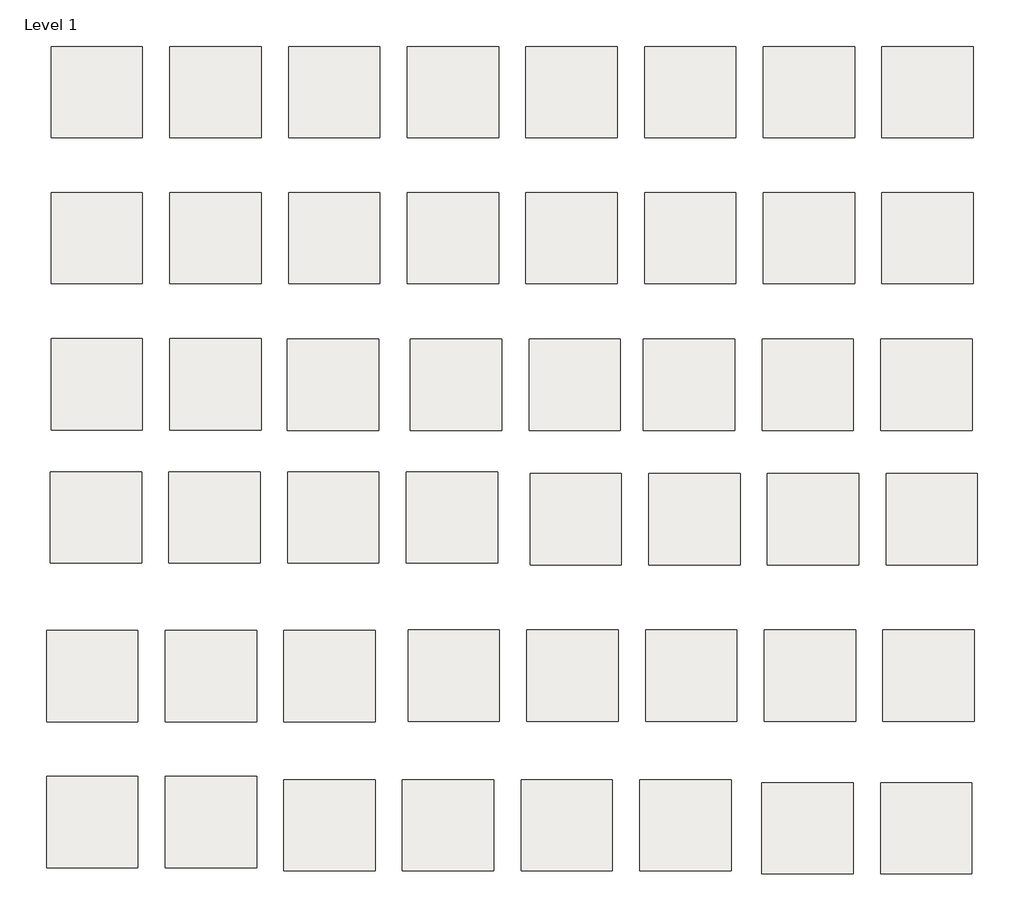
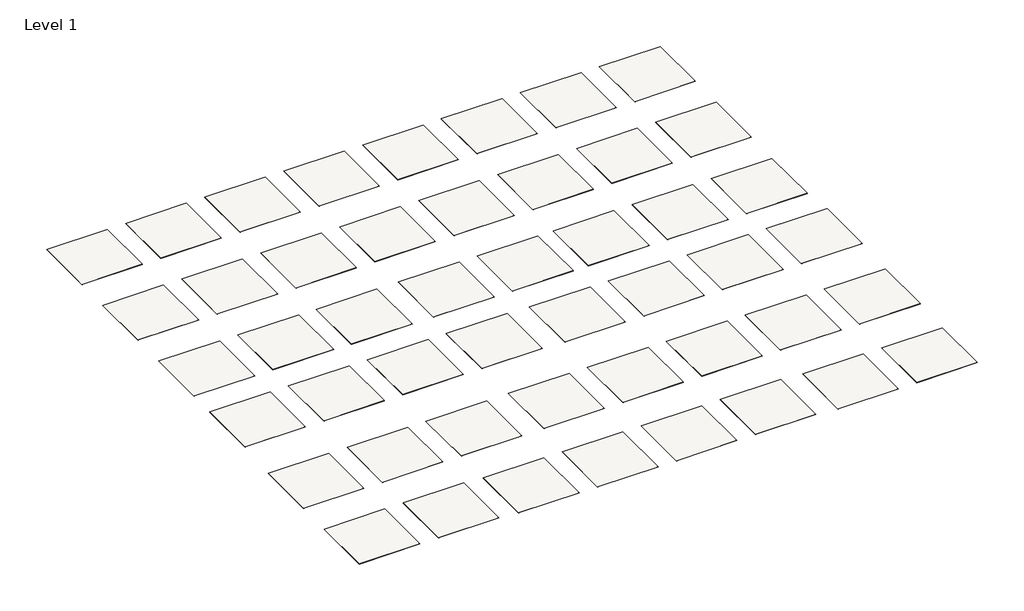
# One storey: 48 slabs.
"""IFC4 building model written with IfcOpenShell, lengths in millimetres."""

from ifc_helpers import new_model, si_unit, frame, origin, place, context, project, spatial, polyline, outline, extrude, element, save

model = new_model("IFC4")

# Units and contexts
model_context = context("Model", 3, world=origin())
ifc_project = project(units=[si_unit("LENGTHUNIT", "METRE", prefix="MILLI")], contexts=[model_context])

# Site, building, storey
site = spatial("IfcSite", under=ifc_project)
building = spatial("IfcBuilding", under=site)
storey = spatial("IfcBuildingStorey", under=building, Name="Level 1", Elevation=0.0)

# Slabs
placement = place(None, origin())
element("IfcSlab", 1, ObjectType="Armstrong_ColorArt_Medintone_H5300_cool white", at=placement, inside=storey, context=model_context, shape_type="SweptSolid", body=[
    extrude(outline(polyline([(3311.6055838, 2884.7695431), (3311.6055838, 1360.7695431), (1787.6055838, 1360.7695431), (1787.6055838, 2884.7695431), (3311.6055838, 2884.7695431)])), frame((0.0, 0.0, -2.4804688), z_axis=(0.0, 0.0, 1.0), x_axis=(1.0, 0.0, 0.0)), (0.0, 0.0, 1.0), 2.4804688),
])
element("IfcSlab", 2, ObjectType="Armstrong_ColorArt_Medintone_H5308_rock dust mid", at=placement, inside=storey, context=model_context, shape_type="SweptSolid", body=[
    extrude(outline(polyline([(3311.6055838, 446.3695431), (3311.6055838, -1077.6304569), (1787.6055838, -1077.6304569), (1787.6055838, 446.3695431), (3311.6055838, 446.3695431)])), frame((0.0, 0.0, -2.4804688), z_axis=(0.0, 0.0, 1.0), x_axis=(1.0, 0.0, 0.0)), (0.0, 0.0, 1.0), 2.4804688),
])
element("IfcSlab", 3, ObjectType="Armstrong_ColorArt_Medintone_H5301_gray light", at=placement, inside=storey, context=model_context, shape_type="SweptSolid", body=[
    extrude(outline(polyline([(5292.8055838, 2884.7695431), (5292.8055838, 1360.7695431), (3768.8055838, 1360.7695431), (3768.8055838, 2884.7695431), (5292.8055838, 2884.7695431)])), frame((0.0, 0.0, -2.4804688), z_axis=(0.0, 0.0, 1.0), x_axis=(1.0, 0.0, 0.0)), (0.0, 0.0, 1.0), 2.4804688),
])
element("IfcSlab", 4, ObjectType="Armstrong_ColorArt_Medintone_H5302_deep gray", at=placement, inside=storey, context=model_context, shape_type="SweptSolid", body=[
    extrude(outline(polyline([(7274.0055838, 2884.7695431), (7274.0055838, 1360.7695431), (5750.0055838, 1360.7695431), (5750.0055838, 2884.7695431), (7274.0055838, 2884.7695431)])), frame((0.0, 0.0, -2.4804688), z_axis=(0.0, 0.0, 1.0), x_axis=(1.0, 0.0, 0.0)), (0.0, 0.0, 1.0), 2.4804688),
])
element("IfcSlab", 5, ObjectType="Armstrong_ColorArt_Medintone_H5303_almost black", at=placement, inside=storey, context=model_context, shape_type="SweptSolid", body=[
    extrude(outline(polyline([(9255.2055838, 2884.7695431), (9255.2055838, 1360.7695431), (7731.2055838, 1360.7695431), (7731.2055838, 2884.7695431), (9255.2055838, 2884.7695431)])), frame((0.0, 0.0, -2.4804688), z_axis=(0.0, 0.0, 1.0), x_axis=(1.0, 0.0, 0.0)), (0.0, 0.0, 1.0), 2.4804688),
])
element("IfcSlab", 6, ObjectType="Armstrong_ColorArt_Medintone_H5304_natural gray light", at=placement, inside=storey, context=model_context, shape_type="SweptSolid", body=[
    extrude(outline(polyline([(11236.4055838, 2884.7695431), (11236.4055838, 1360.7695431), (9712.4055838, 1360.7695431), (9712.4055838, 2884.7695431), (11236.4055838, 2884.7695431)])), frame((0.0, 0.0, -2.4804688), z_axis=(0.0, 0.0, 1.0), x_axis=(1.0, 0.0, 0.0)), (0.0, 0.0, 1.0), 2.4804688),
])
element("IfcSlab", 7, ObjectType="Armstrong_ColorArt_Medintone_H5305_natural gray", at=placement, inside=storey, context=model_context, shape_type="SweptSolid", body=[
    extrude(outline(polyline([(13217.6055838, 2884.7695431), (13217.6055838, 1360.7695431), (11693.6055838, 1360.7695431), (11693.6055838, 2884.7695431), (13217.6055838, 2884.7695431)])), frame((0.0, 0.0, -2.4804688), z_axis=(0.0, 0.0, 1.0), x_axis=(1.0, 0.0, 0.0)), (0.0, 0.0, 1.0), 2.4804688),
])
element("IfcSlab", 8, ObjectType="Armstrong_ColorArt_Medintone_H5306_natural gray dark", at=placement, inside=storey, context=model_context, shape_type="SweptSolid", body=[
    extrude(outline(polyline([(15198.8055838, 2884.7695431), (15198.8055838, 1360.7695431), (13674.8055838, 1360.7695431), (13674.8055838, 2884.7695431), (15198.8055838, 2884.7695431)])), frame((0.0, 0.0, -2.4804688), z_axis=(0.0, 0.0, 1.0), x_axis=(1.0, 0.0, 0.0)), (0.0, 0.0, 1.0), 2.4804688),
])
element("IfcSlab", 9, ObjectType="Armstrong_ColorArt_Medintone_H5307_rock dust light", at=placement, inside=storey, context=model_context, shape_type="SweptSolid", body=[
    extrude(outline(polyline([(17180.0055838, 2884.7695431), (17180.0055838, 1360.7695431), (15656.0055838, 1360.7695431), (15656.0055838, 2884.7695431), (17180.0055838, 2884.7695431)])), frame((0.0, 0.0, -2.4804688), z_axis=(0.0, 0.0, 1.0), x_axis=(1.0, 0.0, 0.0)), (0.0, 0.0, 1.0), 2.4804688),
])
element("IfcSlab", 10, ObjectType="Armstrong_ColorArt_Medintone_H5310_rock brown", at=placement, inside=storey, context=model_context, shape_type="SweptSolid", body=[
    extrude(outline(polyline([(5292.8055838, 446.3695431), (5292.8055838, -1077.6304569), (3768.8055838, -1077.6304569), (3768.8055838, 446.3695431), (5292.8055838, 446.3695431)])), frame((0.0, 0.0, -2.4804688), z_axis=(0.0, 0.0, 1.0), x_axis=(1.0, 0.0, 0.0)), (0.0, 0.0, 1.0), 2.4804688),
])
element("IfcSlab", 11, ObjectType="Armstrong_ColorArt_Medintone_H5311_natural white", at=placement, inside=storey, context=model_context, shape_type="SweptSolid", body=[
    extrude(outline(polyline([(7274.0055838, 446.3695431), (7274.0055838, -1077.6304569), (5750.0055838, -1077.6304569), (5750.0055838, 446.3695431), (7274.0055838, 446.3695431)])), frame((0.0, 0.0, -2.4804688), z_axis=(0.0, 0.0, 1.0), x_axis=(1.0, 0.0, 0.0)), (0.0, 0.0, 1.0), 2.4804688),
])
element("IfcSlab", 12, ObjectType="Armstrong_ColorArt_Medintone_H5312_natural", at=placement, inside=storey, context=model_context, shape_type="SweptSolid", body=[
    extrude(outline(polyline([(9255.2055838, 446.3695431), (9255.2055838, -1077.6304569), (7731.2055838, -1077.6304569), (7731.2055838, 446.3695431), (9255.2055838, 446.3695431)])), frame((0.0, 0.0, -2.4804688), z_axis=(0.0, 0.0, 1.0), x_axis=(1.0, 0.0, 0.0)), (0.0, 0.0, 1.0), 2.4804688),
])
element("IfcSlab", 13, ObjectType="Armstrong_ColorArt_Medintone_H5313_natural tone", at=placement, inside=storey, context=model_context, shape_type="SweptSolid", body=[
    extrude(outline(polyline([(11236.4055838, 446.3695431), (11236.4055838, -1077.6304569), (9712.4055838, -1077.6304569), (9712.4055838, 446.3695431), (11236.4055838, 446.3695431)])), frame((0.0, 0.0, -2.4804688), z_axis=(0.0, 0.0, 1.0), x_axis=(1.0, 0.0, 0.0)), (0.0, 0.0, 1.0), 2.4804688),
])
element("IfcSlab", 14, ObjectType="Armstrong_ColorArt_Medintone_H5316_powder chocolate", at=placement, inside=storey, context=model_context, shape_type="SweptSolid", body=[
    extrude(outline(polyline([(13217.6055838, 446.3695431), (13217.6055838, -1077.6304569), (11693.6055838, -1077.6304569), (11693.6055838, 446.3695431), (13217.6055838, 446.3695431)])), frame((0.0, 0.0, -2.4804688), z_axis=(0.0, 0.0, 1.0), x_axis=(1.0, 0.0, 0.0)), (0.0, 0.0, 1.0), 2.4804688),
])
element("IfcSlab", 15, ObjectType="Armstrong_ColorArt_Medintone_H5319_sand light", at=placement, inside=storey, context=model_context, shape_type="SweptSolid", body=[
    extrude(outline(polyline([(15198.8055838, 446.3695431), (15198.8055838, -1077.6304569), (13674.8055838, -1077.6304569), (13674.8055838, 446.3695431), (15198.8055838, 446.3695431)])), frame((0.0, 0.0, -2.4804688), z_axis=(0.0, 0.0, 1.0), x_axis=(1.0, 0.0, 0.0)), (0.0, 0.0, 1.0), 2.4804688),
])
element("IfcSlab", 16, ObjectType="Armstrong_ColorArt_Medintone_H5320_sand mid", at=placement, inside=storey, context=model_context, shape_type="SweptSolid", body=[
    extrude(outline(polyline([(17180.0055838, 446.3695431), (17180.0055838, -1077.6304569), (15656.0055838, -1077.6304569), (15656.0055838, 446.3695431), (17180.0055838, 446.3695431)])), frame((0.0, 0.0, -2.4804688), z_axis=(0.0, 0.0, 1.0), x_axis=(1.0, 0.0, 0.0)), (0.0, 0.0, 1.0), 2.4804688),
])
element("IfcSlab", 17, ObjectType="Armstrong_ColorArt_Medintone_H5328_grayed blue light", at=placement, inside=storey, context=model_context, shape_type="SweptSolid", body=[
    extrude(outline(polyline([(3311.6055838, -1992.0304569), (3311.6055838, -3516.0304569), (1787.6055838, -3516.0304569), (1787.6055838, -1992.0304569), (3311.6055838, -1992.0304569)])), frame((0.0, 0.0, -2.4804688), z_axis=(0.0, 0.0, 1.0), x_axis=(1.0, 0.0, 0.0)), (0.0, 0.0, 1.0), 2.4804688),
])
element("IfcSlab", 18, ObjectType="Armstrong_ColorArt_Medintone_H5329_grayed blue mid", at=placement, inside=storey, context=model_context, shape_type="SweptSolid", body=[
    extrude(outline(polyline([(5292.8055838, -1992.0304569), (5292.8055838, -3516.0304569), (3768.8055838, -3516.0304569), (3768.8055838, -1992.0304569), (5292.8055838, -1992.0304569)])), frame((0.0, 0.0, -2.4804688), z_axis=(0.0, 0.0, 1.0), x_axis=(1.0, 0.0, 0.0)), (0.0, 0.0, 1.0), 2.4804688),
])
element("IfcSlab", 19, ObjectType="Armstrong_ColorArt_Medintone_H5350_indigo mid", at=placement, inside=storey, context=model_context, shape_type="SweptSolid", body=[
    extrude(outline(polyline([(3297.0960889, -4219.6788415), (3297.0960889, -5743.6788415), (1773.0960889, -5743.6788415), (1773.0960889, -4219.6788415), (3297.0960889, -4219.6788415)])), frame((0.0, 0.0, -2.4804688), z_axis=(0.0, 0.0, 1.0), x_axis=(1.0, 0.0, 0.0)), (0.0, 0.0, 1.0), 2.4804688),
])
element("IfcSlab", 20, ObjectType="Armstrong_ColorArt_Medintone_H5351_indigo", at=placement, inside=storey, context=model_context, shape_type="SweptSolid", body=[
    extrude(outline(polyline([(5278.2960889, -4219.6788415), (5278.2960889, -5743.6788415), (3754.2960889, -5743.6788415), (3754.2960889, -4219.6788415), (5278.2960889, -4219.6788415)])), frame((0.0, 0.0, -2.4804688), z_axis=(0.0, 0.0, 1.0), x_axis=(1.0, 0.0, 0.0)), (0.0, 0.0, 1.0), 2.4804688),
])
element("IfcSlab", 21, ObjectType="Armstrong_ColorArt_Medintone_H5358_soft green light", at=placement, inside=storey, context=model_context, shape_type="SweptSolid", body=[
    extrude(outline(polyline([(7259.4960889, -4219.6788415), (7259.4960889, -5743.6788415), (5735.4960889, -5743.6788415), (5735.4960889, -4219.6788415), (7259.4960889, -4219.6788415)])), frame((0.0, 0.0, -2.4804688), z_axis=(0.0, 0.0, 1.0), x_axis=(1.0, 0.0, 0.0)), (0.0, 0.0, 1.0), 2.4804688),
])
element("IfcSlab", 22, ObjectType="Armstrong_ColorArt_Medintone_H5362_refresh green mid", at=placement, inside=storey, context=model_context, shape_type="SweptSolid", body=[
    extrude(outline(polyline([(9240.6960889, -4219.6788415), (9240.6960889, -5743.6788415), (7716.6960889, -5743.6788415), (7716.6960889, -4219.6788415), (9240.6960889, -4219.6788415)])), frame((0.0, 0.0, -2.4804688), z_axis=(0.0, 0.0, 1.0), x_axis=(1.0, 0.0, 0.0)), (0.0, 0.0, 1.0), 2.4804688),
])
element("IfcSlab", 23, ObjectType="Armstrong_ColorArt_Medintone_H5403_brown umbra", at=placement, inside=storey, context=model_context, shape_type="SweptSolid", body=[
    extrude(outline(polyline([(11305.8660216, -4247.2983315), (11305.8660216, -5771.2983315), (9781.8660216, -5771.2983315), (9781.8660216, -4247.2983315), (11305.8660216, -4247.2983315)])), frame((0.0, 0.0, -2.4804688), z_axis=(0.0, 0.0, 1.0), x_axis=(1.0, 0.0, 0.0)), (0.0, 0.0, 1.0), 2.4804688),
])
element("IfcSlab", 24, ObjectType="Armstrong_ColorArt_Medintone_H5406_ocean blue", at=placement, inside=storey, context=model_context, shape_type="SweptSolid", body=[
    extrude(outline(polyline([(13287.0660216, -4247.2983315), (13287.0660216, -5771.2983315), (11763.0660216, -5771.2983315), (11763.0660216, -4247.2983315), (13287.0660216, -4247.2983315)])), frame((0.0, 0.0, -2.4804688), z_axis=(0.0, 0.0, 1.0), x_axis=(1.0, 0.0, 0.0)), (0.0, 0.0, 1.0), 2.4804688),
])
element("IfcSlab", 25, ObjectType="Armstrong_ColorArt_Medintone_H5408_lime grass", at=placement, inside=storey, context=model_context, shape_type="SweptSolid", body=[
    extrude(outline(polyline([(15268.2660216, -4247.2983315), (15268.2660216, -5771.2983315), (13744.2660216, -5771.2983315), (13744.2660216, -4247.2983315), (15268.2660216, -4247.2983315)])), frame((0.0, 0.0, -2.4804688), z_axis=(0.0, 0.0, 1.0), x_axis=(1.0, 0.0, 0.0)), (0.0, 0.0, 1.0), 2.4804688),
])
element("IfcSlab", 26, ObjectType="Armstrong_ColorArt_Medintone_H5420_little black book", at=placement, inside=storey, context=model_context, shape_type="SweptSolid", body=[
    extrude(outline(polyline([(17249.4660216, -4247.2983315), (17249.4660216, -5771.2983315), (15725.4660216, -5771.2983315), (15725.4660216, -4247.2983315), (17249.4660216, -4247.2983315)])), frame((0.0, 0.0, -2.4804688), z_axis=(0.0, 0.0, 1.0), x_axis=(1.0, 0.0, 0.0)), (0.0, 0.0, 1.0), 2.4804688),
])
element("IfcSlab", 27, ObjectType="Armstrong_ColorArt_Medintone_H5421_hazel", at=placement, inside=storey, context=model_context, shape_type="SweptSolid", body=[
    extrude(outline(polyline([(3235.4055838, -6868.8304569), (3235.4055838, -8392.8304569), (1711.4055838, -8392.8304569), (1711.4055838, -6868.8304569), (3235.4055838, -6868.8304569)])), frame((0.0, 0.0, -2.4804688), z_axis=(0.0, 0.0, 1.0), x_axis=(1.0, 0.0, 0.0)), (0.0, 0.0, 1.0), 2.4804688),
])
element("IfcSlab", 28, ObjectType="Armstrong_ColorArt_Medintone_H5422_walnut", at=placement, inside=storey, context=model_context, shape_type="SweptSolid", body=[
    extrude(outline(polyline([(5216.6055838, -6868.8304569), (5216.6055838, -8392.8304569), (3692.6055838, -8392.8304569), (3692.6055838, -6868.8304569), (5216.6055838, -6868.8304569)])), frame((0.0, 0.0, -2.4804688), z_axis=(0.0, 0.0, 1.0), x_axis=(1.0, 0.0, 0.0)), (0.0, 0.0, 1.0), 2.4804688),
])
element("IfcSlab", 29, ObjectType="Armstrong_ColorArt_Medintone_H5423_golden sun", at=placement, inside=storey, context=model_context, shape_type="SweptSolid", body=[
    extrude(outline(polyline([(7197.8055838, -6868.8304569), (7197.8055838, -8392.8304569), (5673.8055838, -8392.8304569), (5673.8055838, -6868.8304569), (7197.8055838, -6868.8304569)])), frame((0.0, 0.0, -2.4804688), z_axis=(0.0, 0.0, 1.0), x_axis=(1.0, 0.0, 0.0)), (0.0, 0.0, 1.0), 2.4804688),
])
element("IfcSlab", 30, ObjectType="Armstrong_ColorArt_Medintone_H5424_zaffron", at=placement, inside=storey, context=model_context, shape_type="SweptSolid", body=[
    extrude(outline(polyline([(9271.7240001, -6858.6485737), (9271.7240001, -8382.6485737), (7747.7240001, -8382.6485737), (7747.7240001, -6858.6485737), (9271.7240001, -6858.6485737)])), frame((0.0, 0.0, -2.4804688), z_axis=(0.0, 0.0, 1.0), x_axis=(1.0, 0.0, 0.0)), (0.0, 0.0, 1.0), 2.4804688),
])
element("IfcSlab", 31, ObjectType="Armstrong_ColorArt_Medintone_H5425_tangerine", at=placement, inside=storey, context=model_context, shape_type="SweptSolid", body=[
    extrude(outline(polyline([(11252.9240001, -6858.6485737), (11252.9240001, -8382.6485737), (9728.9240001, -8382.6485737), (9728.9240001, -6858.6485737), (11252.9240001, -6858.6485737)])), frame((0.0, 0.0, -2.4804688), z_axis=(0.0, 0.0, 1.0), x_axis=(1.0, 0.0, 0.0)), (0.0, 0.0, 1.0), 2.4804688),
])
element("IfcSlab", 32, ObjectType="Armstrong_ColorArt_Medintone_H5426_flamingo", at=placement, inside=storey, context=model_context, shape_type="SweptSolid", body=[
    extrude(outline(polyline([(13234.1240001, -6858.6485737), (13234.1240001, -8382.6485737), (11710.1240001, -8382.6485737), (11710.1240001, -6858.6485737), (13234.1240001, -6858.6485737)])), frame((0.0, 0.0, -2.4804688), z_axis=(0.0, 0.0, 1.0), x_axis=(1.0, 0.0, 0.0)), (0.0, 0.0, 1.0), 2.4804688),
])
element("IfcSlab", 33, ObjectType="Armstrong_ColorArt_Medintone_H5427_perfectly plum", at=placement, inside=storey, context=model_context, shape_type="SweptSolid", body=[
    extrude(outline(polyline([(15215.3240001, -6858.6485737), (15215.3240001, -8382.6485737), (13691.3240001, -8382.6485737), (13691.3240001, -6858.6485737), (15215.3240001, -6858.6485737)])), frame((0.0, 0.0, -2.4804688), z_axis=(0.0, 0.0, 1.0), x_axis=(1.0, 0.0, 0.0)), (0.0, 0.0, 1.0), 2.4804688),
])
element("IfcSlab", 34, ObjectType="Armstrong_ColorArt_Medintone_H5428_hydrangea", at=placement, inside=storey, context=model_context, shape_type="SweptSolid", body=[
    extrude(outline(polyline([(17196.5240001, -6858.6485737), (17196.5240001, -8382.6485737), (15672.5240001, -8382.6485737), (15672.5240001, -6858.6485737), (17196.5240001, -6858.6485737)])), frame((0.0, 0.0, -2.4804688), z_axis=(0.0, 0.0, 1.0), x_axis=(1.0, 0.0, 0.0)), (0.0, 0.0, 1.0), 2.4804688),
])
element("IfcSlab", 35, ObjectType="Armstrong_ColorArt_Medintone_H5431_mosaic blue", at=placement, inside=storey, context=model_context, shape_type="SweptSolid", body=[
    extrude(outline(polyline([(3235.4055838, -9307.2304569), (3235.4055838, -10831.2304569), (1711.4055838, -10831.2304569), (1711.4055838, -9307.2304569), (3235.4055838, -9307.2304569)])), frame((0.0, 0.0, -2.4804688), z_axis=(0.0, 0.0, 1.0), x_axis=(1.0, 0.0, 0.0)), (0.0, 0.0, 1.0), 2.4804688),
])
element("IfcSlab", 36, ObjectType="Armstrong_ColorArt_Medintone_H5432_regatta", at=placement, inside=storey, context=model_context, shape_type="SweptSolid", body=[
    extrude(outline(polyline([(5216.6055838, -9307.2304569), (5216.6055838, -10831.2304569), (3692.6055838, -10831.2304569), (3692.6055838, -9307.2304569), (5216.6055838, -9307.2304569)])), frame((0.0, 0.0, -2.4804688), z_axis=(0.0, 0.0, 1.0), x_axis=(1.0, 0.0, 0.0)), (0.0, 0.0, 1.0), 2.4804688),
])
element("IfcSlab", 37, ObjectType="Armstrong_ColorArt_Medintone_H5433_blue lagoon", at=placement, inside=storey, context=model_context, shape_type="SweptSolid", body=[
    extrude(outline(polyline([(7194.8737299, -9358.0304569), (7194.8737299, -10882.0304569), (5670.8737299, -10882.0304569), (5670.8737299, -9358.0304569), (7194.8737299, -9358.0304569)])), frame((0.0, 0.0, -2.4804688), z_axis=(0.0, 0.0, 1.0), x_axis=(1.0, 0.0, 0.0)), (0.0, 0.0, 1.0), 2.4804688),
])
element("IfcSlab", 38, ObjectType="Armstrong_ColorArt_Medintone_H5434_mazarine blue", at=placement, inside=storey, context=model_context, shape_type="SweptSolid", body=[
    extrude(outline(polyline([(9176.0737299, -9358.0304569), (9176.0737299, -10882.0304569), (7652.0737299, -10882.0304569), (7652.0737299, -9358.0304569), (9176.0737299, -9358.0304569)])), frame((0.0, 0.0, -2.4804688), z_axis=(0.0, 0.0, 1.0), x_axis=(1.0, 0.0, 0.0)), (0.0, 0.0, 1.0), 2.4804688),
])
element("IfcSlab", 39, ObjectType="Armstrong_ColorArt_Medintone_H5435_promise green", at=placement, inside=storey, context=model_context, shape_type="SweptSolid", body=[
    extrude(outline(polyline([(11157.2737299, -9358.0304569), (11157.2737299, -10882.0304569), (9633.2737299, -10882.0304569), (9633.2737299, -9358.0304569), (11157.2737299, -9358.0304569)])), frame((0.0, 0.0, -2.4804688), z_axis=(0.0, 0.0, 1.0), x_axis=(1.0, 0.0, 0.0)), (0.0, 0.0, 1.0), 2.4804688),
])
element("IfcSlab", 40, ObjectType="Armstrong_ColorArt_Medintone_H5436_maize yellow", at=placement, inside=storey, context=model_context, shape_type="SweptSolid", body=[
    extrude(outline(polyline([(13138.4737299, -9358.0304569), (13138.4737299, -10882.0304569), (11614.4737299, -10882.0304569), (11614.4737299, -9358.0304569), (13138.4737299, -9358.0304569)])), frame((0.0, 0.0, -2.4804688), z_axis=(0.0, 0.0, 1.0), x_axis=(1.0, 0.0, 0.0)), (0.0, 0.0, 1.0), 2.4804688),
])
element("IfcSlab", 41, ObjectType="Armstrong_ColorArt_Medintone_H5438_light aubergine", at=placement, inside=storey, context=model_context, shape_type="SweptSolid", body=[
    extrude(outline(polyline([(15176.8222181, -9410.7269942), (15176.8222181, -10934.7269942), (13652.8222181, -10934.7269942), (13652.8222181, -9410.7269942), (15176.8222181, -9410.7269942)])), frame((0.0, 0.0, -2.4804688), z_axis=(0.0, 0.0, 1.0), x_axis=(1.0, 0.0, 0.0)), (0.0, 0.0, 1.0), 2.4804688),
])
element("IfcSlab", 42, ObjectType="Armstrong_ColorArt_Medintone_H5532_grayed blue", at=placement, inside=storey, context=model_context, shape_type="SweptSolid", body=[
    extrude(outline(polyline([(17158.0222181, -9410.7269942), (17158.0222181, -10934.7269942), (15634.0222181, -10934.7269942), (15634.0222181, -9410.7269942), (17158.0222181, -9410.7269942)])), frame((0.0, 0.0, -2.4804688), z_axis=(0.0, 0.0, 1.0), x_axis=(1.0, 0.0, 0.0)), (0.0, 0.0, 1.0), 2.4804688),
])
element("IfcSlab", 43, ObjectType="Armstrong Flooring_Standard Excelon®_H5331_Aspen White", at=placement, inside=storey, context=model_context, shape_type="SweptSolid", body=[
    extrude(outline(polyline([(7252.7565267, -2004.5467161), (7252.7565267, -3528.5467161), (5728.7565267, -3528.5467161), (5728.7565267, -2004.5467161), (7252.7565267, -2004.5467161)])), frame((0.0, 0.0, -3.175), z_axis=(0.0, 0.0, 1.0), x_axis=(1.0, 0.0, 0.0)), (0.0, 0.0, 1.0), 3.175),
])
element("IfcSlab", 44, ObjectType="Armstrong Flooring_Standard Excelon®_H5332_Willow Green", at=placement, inside=storey, context=model_context, shape_type="SweptSolid", body=[
    extrude(outline(polyline([(9310.1565267, -2004.5467161), (9310.1565267, -3528.5467161), (7786.1565267, -3528.5467161), (7786.1565267, -2004.5467161), (9310.1565267, -2004.5467161)])), frame((0.0, 0.0, -3.175), z_axis=(0.0, 0.0, 1.0), x_axis=(1.0, 0.0, 0.0)), (0.0, 0.0, 1.0), 3.175),
])
element("IfcSlab", 45, ObjectType="Armstrong Flooring_Standard Excelon®_H5333_Stream Blue", at=placement, inside=storey, context=model_context, shape_type="SweptSolid", body=[
    extrude(outline(polyline([(11291.3565267, -2004.5467161), (11291.3565267, -3528.5467161), (9767.3565267, -3528.5467161), (9767.3565267, -2004.5467161), (11291.3565267, -2004.5467161)])), frame((0.0, 0.0, -3.175), z_axis=(0.0, 0.0, 1.0), x_axis=(1.0, 0.0, 0.0)), (0.0, 0.0, 1.0), 3.175),
])
element("IfcSlab", 46, ObjectType="Armstrong Flooring_Standard Excelon®_H5334_Evening Red", at=placement, inside=storey, context=model_context, shape_type="SweptSolid", body=[
    extrude(outline(polyline([(13196.3565267, -2004.5467161), (13196.3565267, -3528.5467161), (11672.3565267, -3528.5467161), (11672.3565267, -2004.5467161), (13196.3565267, -2004.5467161)])), frame((0.0, 0.0, -3.175), z_axis=(0.0, 0.0, 1.0), x_axis=(1.0, 0.0, 0.0)), (0.0, 0.0, 1.0), 3.175),
])
element("IfcSlab", 47, ObjectType="Armstrong Flooring_Standard Excelon®_H5335_Ridgeline Rust", at=placement, inside=storey, context=model_context, shape_type="SweptSolid", body=[
    extrude(outline(polyline([(15177.5565267, -2004.5467161), (15177.5565267, -3528.5467161), (13653.5565267, -3528.5467161), (13653.5565267, -2004.5467161), (15177.5565267, -2004.5467161)])), frame((0.0, 0.0, -3.175), z_axis=(0.0, 0.0, 1.0), x_axis=(1.0, 0.0, 0.0)), (0.0, 0.0, 1.0), 3.175),
])
element("IfcSlab", 48, ObjectType="Armstrong Flooring_Standard Excelon®_H5336_Night Sky", at=placement, inside=storey, context=model_context, shape_type="SweptSolid", body=[
    extrude(outline(polyline([(17158.7565267, -2004.5467161), (17158.7565267, -3528.5467161), (15634.7565267, -3528.5467161), (15634.7565267, -2004.5467161), (17158.7565267, -2004.5467161)])), frame((0.0, 0.0, -3.175), z_axis=(0.0, 0.0, 1.0), x_axis=(1.0, 0.0, 0.0)), (0.0, 0.0, 1.0), 3.175),
])

save(model, "model.ifc")
